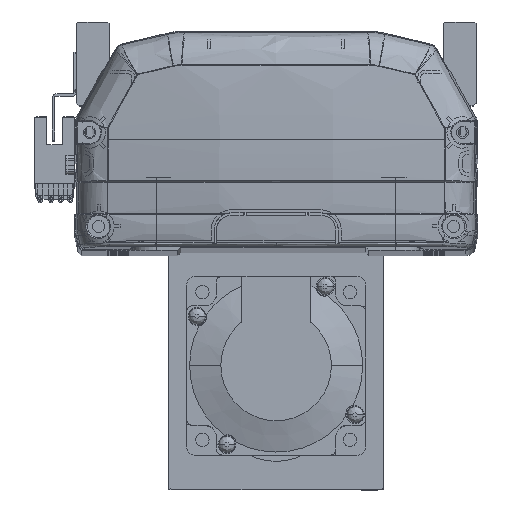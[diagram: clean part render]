
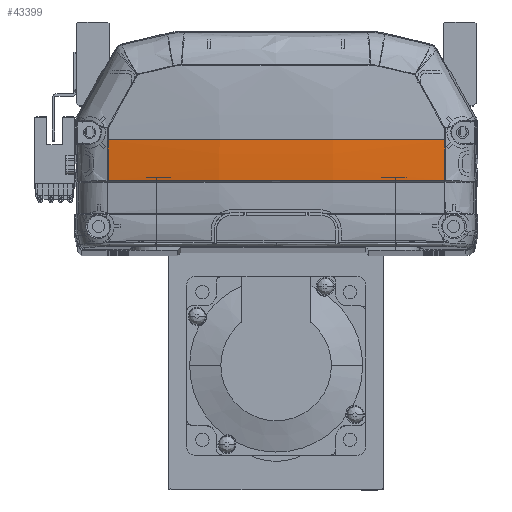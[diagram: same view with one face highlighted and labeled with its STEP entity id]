
A CAD part, top view. The second image highlights one B-rep face of the part: STEP entity #43399.
In plain terms, the highlighted free-form (B-spline) face has degree [3, 3] with [4, 4] control points.
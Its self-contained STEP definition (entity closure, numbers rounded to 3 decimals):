
#893 = CARTESIAN_POINT ( 'NONE',  ( 6452.613, 35.969, -5.158 ) ) ;
#1562 = VERTEX_POINT ( 'NONE', #32452 ) ;
#1803 = CARTESIAN_POINT ( 'NONE',  ( -57.335, 36., -5.042 ) ) ;
#1938 = CARTESIAN_POINT ( 'NONE',  ( -56.647, 36., -5.158 ) ) ;
#5640 = AXIS2_PLACEMENT_3D ( 'NONE', #893, #23718, #32322 ) ;
#7116 = CARTESIAN_POINT ( 'NONE',  ( 56.647, 36., -5.158 ) ) ;
#7223 = CARTESIAN_POINT ( 'NONE',  ( 8.363, 22.225, -9.48 ) ) ;
#10861 = CARTESIAN_POINT ( 'NONE',  ( -19.295, 21.828, -11.186 ) ) ;
#11173 = CARTESIAN_POINT ( 'NONE',  ( 56.652, 26.806, -5.044 ) ) ;
#11294 = CARTESIAN_POINT ( 'NONE',  ( 19.295, 26.549, -11.419 ) ) ;
#12018 = AXIS2_PLACEMENT_3D ( 'NONE', #44565, #21898, #22079 ) ;
#15181 = ORIENTED_EDGE ( 'NONE', *, *, #42705, .F. ) ;
#15854 = CARTESIAN_POINT ( 'NONE',  ( 56.647, 35.969, -5.158 ) ) ;
#17471 = VERTEX_POINT ( 'NONE', #57586 ) ;
#17669 = CARTESIAN_POINT ( 'NONE',  ( -38.235, 22.225, -7.93 ) ) ;
#19565 = CARTESIAN_POINT ( 'NONE',  ( -19.295, 26.549, -11.419 ) ) ;
#20858 = CARTESIAN_POINT ( 'NONE',  ( 2.357, 22.225, -9.562 ) ) ;
#21898 = DIRECTION ( 'NONE',  ( 0., 1., 0. ) ) ;
#22079 = DIRECTION ( 'NONE',  ( 0., 0., -1. ) ) ;
#23021 = ORIENTED_EDGE ( 'NONE', *, *, #40973, .F. ) ;
#23718 = DIRECTION ( 'NONE',  ( 0., 0., -1. ) ) ;
#23794 = EDGE_CURVE ( 'NONE', #17471, #45201, #31269, .T. ) ;
#24225 = CARTESIAN_POINT ( 'NONE',  ( 19.295, 21.828, -11.186 ) ) ;
#24421 = CARTESIAN_POINT ( 'NONE',  ( 57.335, 36., -5.042 ) ) ;
#24628 = CARTESIAN_POINT ( 'NONE',  ( -57.335, 26.762, -4.928 ) ) ;
#25510 = CARTESIAN_POINT ( 'NONE',  ( 56.661, 22.225, -4.818 ) ) ;
#26651 = FACE_OUTER_BOUND ( 'NONE', #46169, .T. ) ;
#27025 = CARTESIAN_POINT ( 'NONE',  ( -56.661, 22.225, -4.818 ) ) ;
#28364 = VERTEX_POINT ( 'NONE', #1938 ) ;
#28473 = EDGE_CURVE ( 'NONE', #1562, #51540, #35453, .T. ) ;
#28530 = CARTESIAN_POINT ( 'NONE',  ( -57.335, 22.148, -4.7 ) ) ;
#28924 = CARTESIAN_POINT ( 'NONE',  ( 19.295, 36., -11.535 ) ) ;
#30025 = CARTESIAN_POINT ( 'NONE',  ( 38.071, 22.225, -7.566 ) ) ;
#30395 = CARTESIAN_POINT ( 'NONE',  ( 11.954, 22.225, -9.367 ) ) ;
#31269 = CIRCLE ( 'NONE', #5640, 6395.966 ) ;
#32322 = DIRECTION ( 'NONE',  ( -1., 0., 0. ) ) ;
#32452 = CARTESIAN_POINT ( 'NONE',  ( 56.661, 22.225, -4.818 ) ) ;
#32851 = CARTESIAN_POINT ( 'NONE',  ( -57.335, 31.38, -5.042 ) ) ;
#33532 = CIRCLE ( 'NONE', #12018, 340.733 ) ;
#34527 = CARTESIAN_POINT ( 'NONE',  ( 1.152, 22.225, -9.568 ) ) ;
#34909 = CARTESIAN_POINT ( 'NONE',  ( 4.761, 22.225, -9.537 ) ) ;
#35453 = B_SPLINE_CURVE_WITH_KNOTS ( 'NONE', 3,
 ( #25510, #56844, #30025, #39199, #57226, #30395, #7223, #34909, #20858, #34527, #53689, #17669, #53117 ),
 .UNSPECIFIED., .F., .F.,
 ( 4, 2, 2, 1, 2, 2, 4 ),
 ( 0., 0.25, 0.375, 0.438, 0.469, 0.5, 1. ),
 .UNSPECIFIED. ) ;
#35893 = ORIENTED_EDGE ( 'NONE', *, *, #54987, .F. ) ;
#37332 = CARTESIAN_POINT ( 'NONE',  ( -19.295, 31.274, -11.535 ) ) ;
#37686 = ORIENTED_EDGE ( 'NONE', *, *, #23794, .F. ) ;
#38969 = CARTESIAN_POINT ( 'NONE',  ( -56.647, 31.405, -5.158 ) ) ;
#39199 = CARTESIAN_POINT ( 'NONE',  ( 23.877, 22.225, -8.763 ) ) ;
#40662 =( BOUNDED_SURFACE ( )  B_SPLINE_SURFACE ( 3, 3, ( 
 ( #51633, #55549, #42021, #24421 ),
 ( #24225, #11294, #56135, #28924 ),
 ( #10861, #19565, #37332, #55367 ),
 ( #28530, #24628, #32851, #1803 ) ),
 .UNSPECIFIED., .F., .F., .T. ) 
 B_SPLINE_SURFACE_WITH_KNOTS ( ( 4, 4 ),
 ( 4, 4 ),
 ( 0., 1. ),
 ( 0., 1. ),
 .UNSPECIFIED. ) 
 GEOMETRIC_REPRESENTATION_ITEM ( )  RATIONAL_B_SPLINE_SURFACE ( (
 ( 1., 1., 1., 1.),
 ( 0.99, 0.99, 0.99, 0.99),
 ( 0.99, 0.99, 0.99, 0.99),
 ( 1., 1., 1., 1.) ) ) 
 REPRESENTATION_ITEM ( '' )  SURFACE ( )  );
#40973 = EDGE_CURVE ( 'NONE', #1562, #17471, #56088, .T. ) ;
#42021 = CARTESIAN_POINT ( 'NONE',  ( 57.335, 31.38, -5.042 ) ) ;
#42676 = CARTESIAN_POINT ( 'NONE',  ( 56.661, 22.225, -4.818 ) ) ;
#42705 = EDGE_CURVE ( 'NONE', #45201, #28364, #33532, .T. ) ;
#42853 = ORIENTED_EDGE ( 'NONE', *, *, #28473, .T. ) ;
#43399 = ADVANCED_FACE ( 'NONE', ( #26651 ), #40662, .T. ) ;
#43690 = CARTESIAN_POINT ( 'NONE',  ( -56.647, 36., -5.158 ) ) ;
#44565 = CARTESIAN_POINT ( 'NONE',  ( 0., 36., 330.833 ) ) ;
#45201 = VERTEX_POINT ( 'NONE', #7116 ) ;
#46169 = EDGE_LOOP ( 'NONE', ( #15181, #37686, #23021, #42853, #35893 ) ) ;
#48195 = CARTESIAN_POINT ( 'NONE',  ( -56.661, 22.225, -4.818 ) ) ;
#51540 = VERTEX_POINT ( 'NONE', #27025 ) ;
#51581 = B_SPLINE_CURVE_WITH_KNOTS ( 'NONE', 3,
 ( #43690, #38969, #51958, #48195 ),
 .UNSPECIFIED., .F., .F.,
 ( 4, 4 ),
 ( 0., 1. ),
 .UNSPECIFIED. ) ;
#51633 = CARTESIAN_POINT ( 'NONE',  ( 57.335, 22.148, -4.7 ) ) ;
#51923 = CARTESIAN_POINT ( 'NONE',  ( 56.647, 31.387, -5.158 ) ) ;
#51958 = CARTESIAN_POINT ( 'NONE',  ( -56.652, 26.814, -5.045 ) ) ;
#53117 = CARTESIAN_POINT ( 'NONE',  ( -56.661, 22.225, -4.818 ) ) ;
#53689 = CARTESIAN_POINT ( 'NONE',  ( -19.28, 22.225, -9.565 ) ) ;
#54987 = EDGE_CURVE ( 'NONE', #28364, #51540, #51581, .T. ) ;
#55367 = CARTESIAN_POINT ( 'NONE',  ( -19.295, 36., -11.535 ) ) ;
#55549 = CARTESIAN_POINT ( 'NONE',  ( 57.335, 26.762, -4.928 ) ) ;
#56088 = B_SPLINE_CURVE_WITH_KNOTS ( 'NONE', 3,
 ( #42676, #11173, #51923, #15854 ),
 .UNSPECIFIED., .F., .F.,
 ( 4, 4 ),
 ( 0., 1. ),
 .UNSPECIFIED. ) ;
#56135 = CARTESIAN_POINT ( 'NONE',  ( 19.295, 31.274, -11.535 ) ) ;
#56844 = CARTESIAN_POINT ( 'NONE',  ( 47.432, 22.225, -6.377 ) ) ;
#57226 = CARTESIAN_POINT ( 'NONE',  ( 19.121, 22.225, -9.064 ) ) ;
#57586 = CARTESIAN_POINT ( 'NONE',  ( 56.647, 35.969, -5.158 ) ) ;
